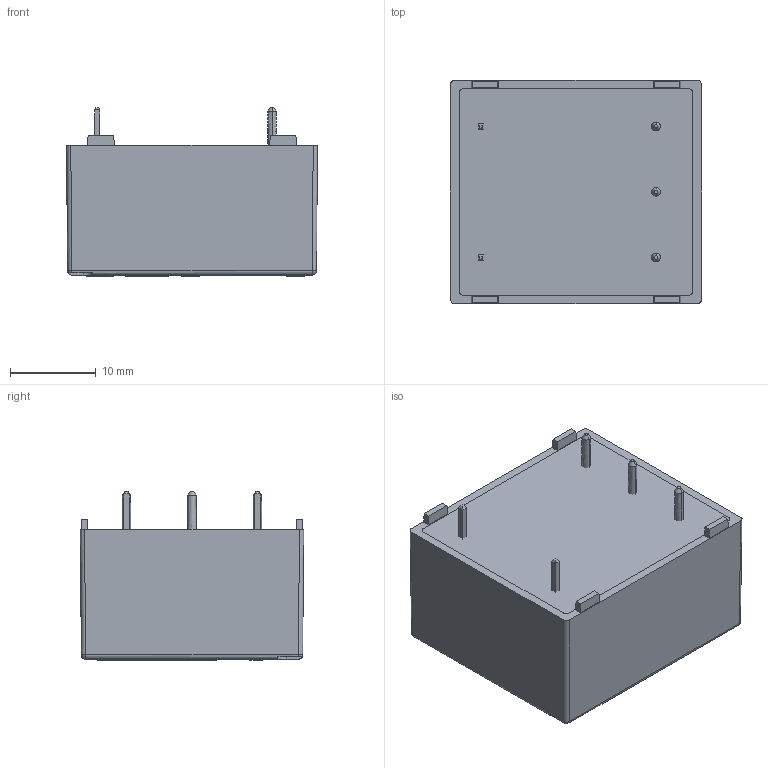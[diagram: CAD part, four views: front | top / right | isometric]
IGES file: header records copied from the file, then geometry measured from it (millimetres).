
Start section: Elysium IGES Interface
Global section: file name: C:\Documents and Settings\jdz\Desktop\LV25-P.igs; native system: SolidDesigner 16.00A  16-Aug-2008; preprocessor: CoCreate IGES_3D V2.2; author: Unknown; organization: Unknown; date: 20090128.135023; units: millimetre
Bounding box: 29.2 x 26 x 19.75 mm (x, y, z)
Volume: 11412 mm3; surface area: 4940.4 mm2
Topology: 7 solids, 7 shells, 544 faces, 1401 edges, 903 vertices
Faces by surface type: bspline 544
